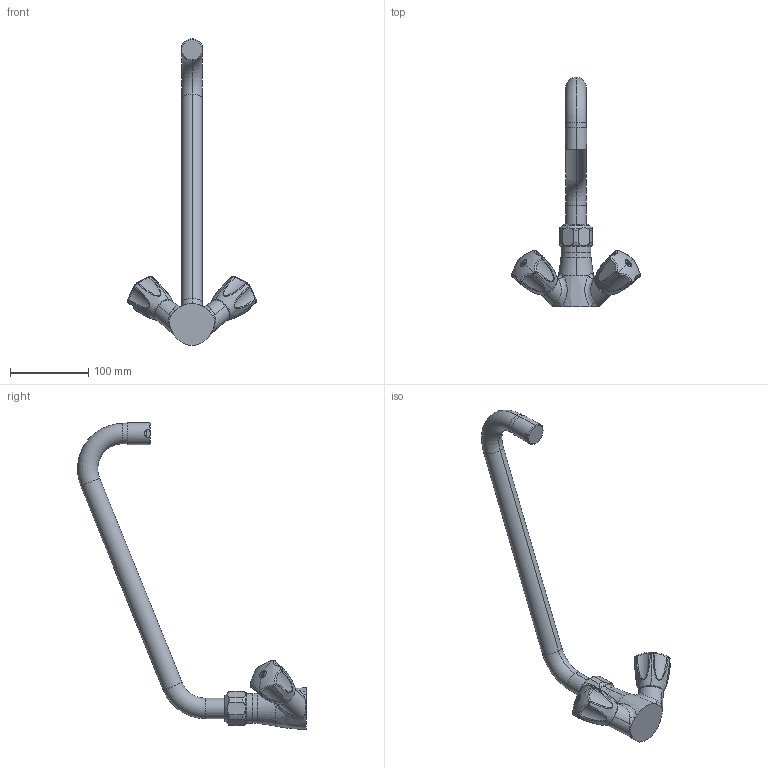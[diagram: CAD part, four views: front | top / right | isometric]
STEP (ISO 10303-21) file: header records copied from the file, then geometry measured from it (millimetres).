
FILE_DESCRIPTION((''),'2;1');
FILE_NAME('505276_SW0001','2025-11-10T11:24:22',('YY993'),(''),'CREO PARAMETRIC BY PTC INC, 2024133','CREO PARAMETRIC BY PTC INC, 2024133','');
FILE_SCHEMA(('CONFIG_CONTROL_DESIGN'));
Length unit declared in the file: millimetre
Products named in the file (1): 505276_SW0001
Bounding box: 163.64 x 292.24 x 391.47 mm (x, y, z)
Volume: 580063.1 mm3; surface area: 77815.8 mm2
Topology: 1 solids, 1 shells, 246 faces, 582 edges, 350 vertices
Faces by surface type: plane 84, bspline 42, cylinder 42, torus 40, sphere 28, cone 6, extrusion 4
Entity records: 14261 total; most frequent: CARTESIAN_POINT 8779, ORIENTED_EDGE 1164, DIRECTION 1116, EDGE_CURVE 582, AXIS2_PLACEMENT_3D 444, VERTEX_POINT 350, EDGE_LOOP 258, FACE_OUTER_BOUND 246
